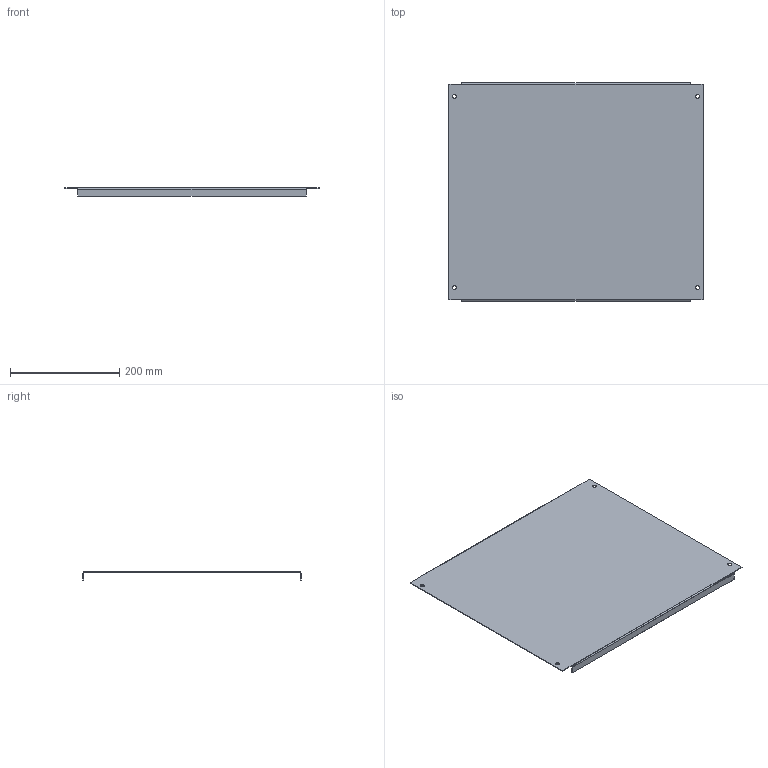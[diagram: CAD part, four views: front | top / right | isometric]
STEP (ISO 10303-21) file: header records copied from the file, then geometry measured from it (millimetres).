
FILE_DESCRIPTION (( 'STEP AP203' ), '1' );
FILE_NAME ('MB 40.50 Ïàíåëü ìîäóëüíàÿ.STEP', '2012-11-21T07:15:14', ( 'system' ), ( '' ), 'SwSTEP 2.0', 'SolidWorks 2012', '' );
FILE_SCHEMA (( 'CONFIG_CONTROL_DESIGN' ));
Length unit declared in the file: millimetre
Products named in the file (1): MB 40.50 Ïàíåëü ìîäóëüíàÿ
Bounding box: 465 x 399 x 15 mm (x, y, z)
Volume: 235292.7 mm3; surface area: 394396.2 mm2
Topology: 1 solids, 1 shells, 34 faces, 80 edges, 48 vertices
Faces by surface type: plane 22, cylinder 12
Entity records: 1053 total; most frequent: DIRECTION 174, CARTESIAN_POINT 163, ORIENTED_EDGE 160, EDGE_CURVE 80, AXIS2_PLACEMENT_3D 59, LINE 56, VECTOR 56, VERTEX_POINT 48
